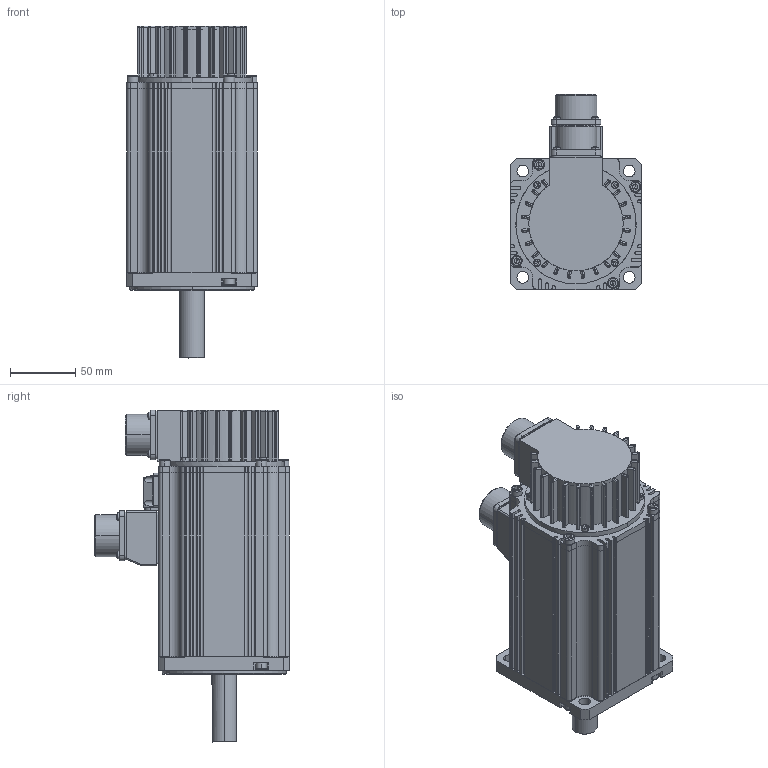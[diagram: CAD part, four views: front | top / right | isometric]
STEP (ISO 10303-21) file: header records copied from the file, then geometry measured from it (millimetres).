
FILE_DESCRIPTION((''),'2;1');
FILE_NAME('L-20E4K3A0_ASM','2018-11-26T',('lisy41'),(''),'CREO PARAMETRIC BY PTC INC, 2015480','CREO PARAMETRIC BY PTC INC, 2015480','');
FILE_SCHEMA(('CONFIG_CONTROL_DESIGN'));
Length unit declared in the file: millimetre
Products named in the file (39): 80D5005401_AF0; 80S6000401; 80G6000101; HANGCHAMIFENGJIAODIAN; 80G3000201; MJ01-8065_AF4; MJ01-8065_AF5; MJ01-8065_AF6; MJ01-8065_AF7; 80C4003701_AF0_ASM; 80Q0006901_AF0; 80L4004701_AF0_ASM; 80D2004601_AF1; 80L5004201_AF0_ASM; 80D2004501_AF1; 80S6002801; 80S5000101; MJ01-8059_AF8; MJ01-8059_AF9; MJ01-8059_AF10; MJ01-8059_AF11; MJ01-8059_AF12; MJ01-8059_AF13; MJ01-8059_AF14; MJ01-8059_AF15; MJ01-8045_AF4; MJ01-8045_AF5; MJ01-8045_AF6; MJ01-8045_AF7; 80D20009011_AF1; 80G3000501; MJ01-8041; 80T5004101_AF1_ASM; MJ01-8033_AF4; MJ01-8033_AF5; MJ01-8033_AF6; MJ01-8033_AF7; ASM0001_AF1_ASM; L-20E4K3A0_ASM
Assembly tree (42 placements, depth 4):
  L-20E4K3A0_ASM
    80C4003701_AF0_ASM
      80D5005401_AF0
      80S6000401
      80G6000101
      HANGCHAMIFENGJIAODIAN
      80G3000201
      MJ01-8065_AF4
      MJ01-8065_AF5
      MJ01-8065_AF6
      MJ01-8065_AF7
    80L5004201_AF0_ASM
      80L4004701_AF0_ASM
        80Q0006901_AF0
      80D2004601_AF1
    80D2004501_AF1
    80S6002801
    80S5000101
    MJ01-8059_AF8
    MJ01-8059_AF9
    MJ01-8059_AF10
    MJ01-8059_AF11
    MJ01-8059_AF12
    MJ01-8059_AF13
    MJ01-8059_AF14
    MJ01-8059_AF15
    MJ01-8045_AF4
    MJ01-8045_AF5
    MJ01-8045_AF6
    MJ01-8045_AF7
    ASM0001_AF1_ASM
      80T5004101_AF1_ASM
        80D20009011_AF1
        HANGCHAMIFENGJIAODIAN
        80G3000501
        MJ01-8041  x4
      MJ01-8033_AF4
      MJ01-8033_AF5
      MJ01-8033_AF6
      MJ01-8033_AF7
Bounding box: 100 x 149.1 x 254.05 mm (x, y, z)
Volume: 424837.6 mm3; surface area: 265974.8 mm2
Topology: 37 solids, 73 shells, 2673 faces, 6565 edges, 4012 vertices
Faces by surface type: cylinder 1162, plane 884, cone 467, sphere 116, torus 44
Entity records: 66466 total; most frequent: CARTESIAN_POINT 12634, DIRECTION 12014, ORIENTED_EDGE 10504, EDGE_CURVE 5329, AXIS2_PLACEMENT_3D 4633, VERTEX_POINT 3406, VECTOR 2748, LINE 2748
